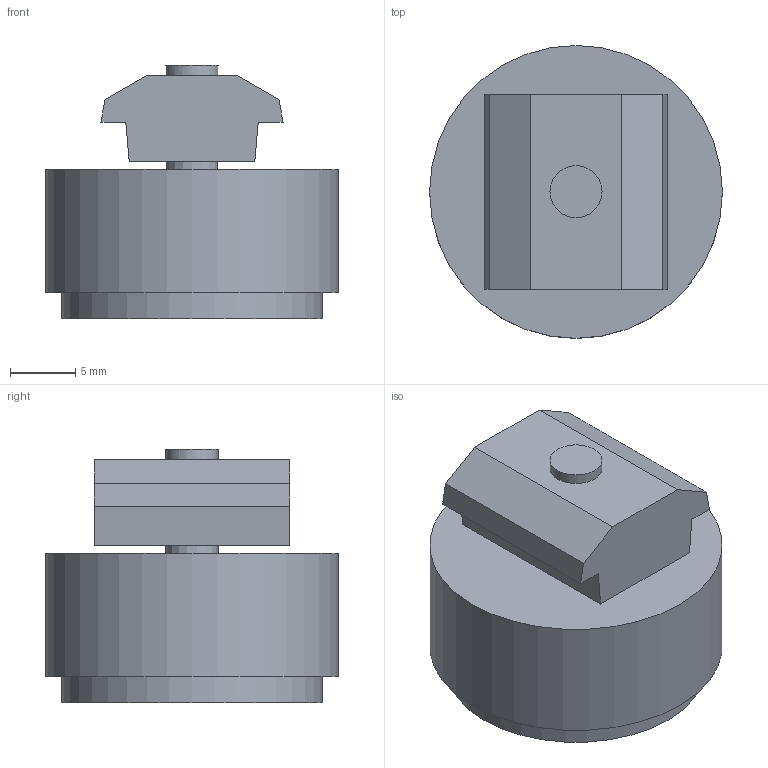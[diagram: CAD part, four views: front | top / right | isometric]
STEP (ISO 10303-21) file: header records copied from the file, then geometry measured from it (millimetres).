
FILE_DESCRIPTION(('STEP AP214'),'1');
FILE_NAME('AJPF-TM40.stp','2017-03-20T05:37:27',(' '),(' '),'Spatial InterOp 3D',' ',' ');
FILE_SCHEMA(('automotive_design'));
Length unit declared in the file: millimetre
Products named in the file (4): AJPF-TM40; AJPF-TM; ねじ: 穴付き - M4.0 x 12.0; NF40-M4
Assembly tree (3 placements, depth 2):
  AJPF-TM40
    AJPF-TM
    ねじ: 穴付き - M4.0 x 12.0
    NF40-M4
Bounding box: 22.5 x 22.5 x 19.5 mm (x, y, z)
Volume: 5161 mm3; surface area: 2913.8 mm2
Topology: 3 solids, 3 shells, 34 faces, 72 edges, 48 vertices
Faces by surface type: plane 26, cylinder 6, cone 2
Full cylindrical faces by diameter (mm): 4 x1, 4.3 x1, 6.9 x1, 9 x1, 20 x1, 22.5 x1
Entity records: 1227 total; most frequent: DIRECTION 154, CARTESIAN_POINT 148, ORIENTED_EDGE 126, EDGE_CURVE 63, AXIS2_PLACEMENT_3D 53, EDGE_LOOP 50, LINE 48, VECTOR 48
